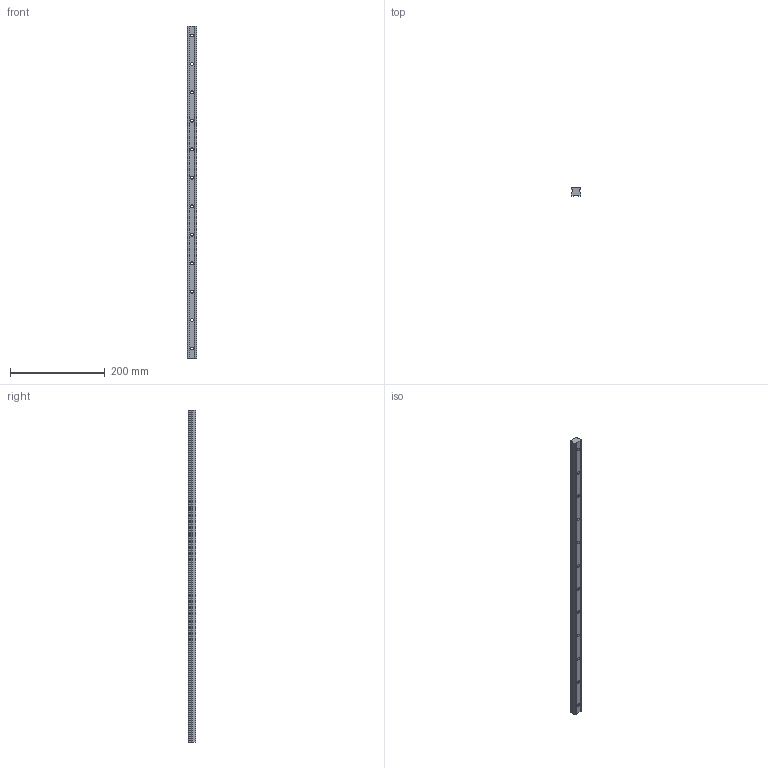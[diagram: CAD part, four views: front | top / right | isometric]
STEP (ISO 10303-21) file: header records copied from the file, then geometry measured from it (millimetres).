
FILE_DESCRIPTION (( 'STEP AP203' ), '1' );
FILE_NAME ('L1016.BL20-0700.step', '2019-06-12T11:47:07', ( '' ), ( '' ), 'SwSTEP 2.0', 'SolidWorks 2017', '' );
FILE_SCHEMA (( 'CONFIG_CONTROL_DESIGN' ));
Length unit declared in the file: millimetre
Products named in the file (1): L1016.BL20-0700
Bounding box: 20 x 16.3 x 700 mm (x, y, z)
Volume: 194378.6 mm3; surface area: 56831.8 mm2
Topology: 1 solids, 1 shells, 86 faces, 216 edges, 144 vertices
Faces by surface type: cylinder 52, plane 34
Entity records: 2749 total; most frequent: DIRECTION 494, CARTESIAN_POINT 447, ORIENTED_EDGE 432, EDGE_CURVE 216, AXIS2_PLACEMENT_3D 191, VERTEX_POINT 144, EDGE_LOOP 122, VECTOR 112
